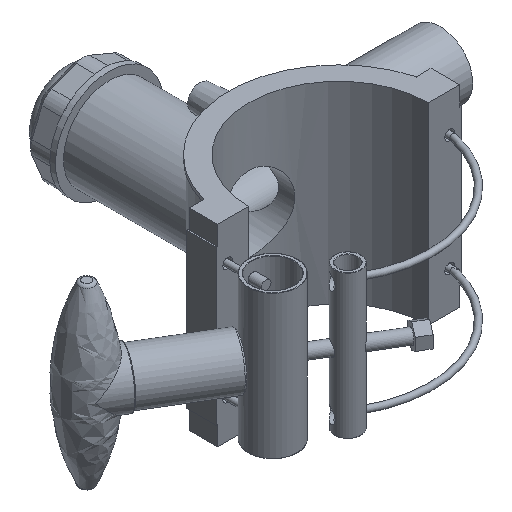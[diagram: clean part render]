
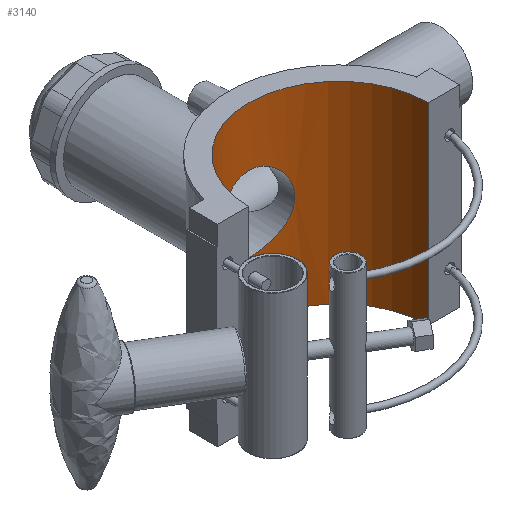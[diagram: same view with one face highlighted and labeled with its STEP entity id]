
A CAD part, isometric view. The second image highlights one B-rep face of the part: STEP entity #3140.
In plain terms, the highlighted cylindrical face has radius 55 mm (diameter 110 mm), a partial arc.
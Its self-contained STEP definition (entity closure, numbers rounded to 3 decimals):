
#59=B_SPLINE_CURVE_WITH_KNOTS('',3,(#4564,#4565,#4566,#4567,#4568,#4569,
#4570,#4571,#4572,#4573,#4574,#4575,#4576,#4577,#4578,#4579,#4580,#4581,
#4582,#4583,#4584,#4585,#4586,#4587,#4588,#4589,#4590,#4591,#4592,#4593,
#4594,#4595,#4596,#4597,#4598,#4599,#4600,#4601,#4602,#4603,#4604,#4605,
#4606,#4607,#4608,#4609,#4610,#4611,#4612,#4613),.UNSPECIFIED.,.F.,.F.,
(4,2,2,2,2,2,2,2,2,2,2,2,2,2,2,2,2,2,2,2,2,2,2,2,4),(0.,0.441,
0.883,1.324,1.765,2.206,2.647,
3.088,3.529,3.969,4.41,4.851,
5.292,5.733,6.175,6.616,7.057,
7.499,7.94,8.381,8.823,9.264,
9.704,10.145,10.586),.UNSPECIFIED.);
#60=B_SPLINE_CURVE_WITH_KNOTS('',3,(#4614,#4615,#4616,#4617,#4618,#4619,
#4620,#4621,#4622,#4623,#4624,#4625,#4626,#4627,#4628,#4629,#4630,#4631),
 .UNSPECIFIED.,.F.,.F.,(4,2,2,2,2,2,2,2,4),(10.586,11.027,
11.468,11.908,12.349,12.791,13.232,
13.673,14.115),.UNSPECIFIED.);
#176=FACE_BOUND('',#605,.T.);
#404=FACE_OUTER_BOUND('',#604,.T.);
#604=EDGE_LOOP('',(#2621,#2622,#2623,#2624));
#605=EDGE_LOOP('',(#2625,#2626));
#800=CIRCLE('',#3439,55.);
#801=CIRCLE('',#3441,55.);
#1007=LINE('',#5841,#1212);
#1012=LINE('',#5850,#1217);
#1212=VECTOR('',#4119,10.);
#1217=VECTOR('',#4126,10.);
#1301=VERTEX_POINT('',#4561);
#1302=VERTEX_POINT('',#4563);
#1463=VERTEX_POINT('',#5838);
#1464=VERTEX_POINT('',#5840);
#1466=VERTEX_POINT('',#5846);
#1467=VERTEX_POINT('',#5848);
#1622=EDGE_CURVE('',#1302,#1301,#59,.T.);
#1623=EDGE_CURVE('',#1301,#1302,#60,.T.);
#1868=EDGE_CURVE('',#1464,#1463,#1007,.T.);
#1873=EDGE_CURVE('',#1466,#1467,#1012,.T.);
#1875=EDGE_CURVE('',#1466,#1463,#800,.T.);
#1876=EDGE_CURVE('',#1464,#1467,#801,.T.);
#2621=ORIENTED_EDGE('',*,*,#1873,.T.);
#2622=ORIENTED_EDGE('',*,*,#1876,.F.);
#2623=ORIENTED_EDGE('',*,*,#1868,.T.);
#2624=ORIENTED_EDGE('',*,*,#1875,.F.);
#2625=ORIENTED_EDGE('',*,*,#1622,.T.);
#2626=ORIENTED_EDGE('',*,*,#1623,.T.);
#3006=CYLINDRICAL_SURFACE('',#3440,55.);
#3140=ADVANCED_FACE('',(#404,#176),#3006,.F.);
#3439=AXIS2_PLACEMENT_3D('',#5854,#4132,#4133);
#3440=AXIS2_PLACEMENT_3D('',#5855,#4134,#4135);
#3441=AXIS2_PLACEMENT_3D('',#5856,#4136,#4137);
#4119=DIRECTION('',(0.,0.,1.));
#4126=DIRECTION('',(0.,0.,-1.));
#4132=DIRECTION('center_axis',(0.,0.,-1.));
#4133=DIRECTION('ref_axis',(1.,0.,0.));
#4134=DIRECTION('center_axis',(0.,0.,1.));
#4135=DIRECTION('ref_axis',(1.,0.,0.));
#4136=DIRECTION('center_axis',(0.,0.,1.));
#4137=DIRECTION('ref_axis',(1.,0.,0.));
#4561=CARTESIAN_POINT('',(0.,55.,-23.1));
#4563=CARTESIAN_POINT('',(-23.1,49.914,0.));
#4564=CARTESIAN_POINT('Ctrl Pts',(-23.1,49.914,0.));
#4565=CARTESIAN_POINT('Ctrl Pts',(-23.1,49.914,1.471));
#4566=CARTESIAN_POINT('Ctrl Pts',(-22.957,49.981,2.986));
#4567=CARTESIAN_POINT('Ctrl Pts',(-22.363,50.249,5.986));
#4568=CARTESIAN_POINT('Ctrl Pts',(-21.913,50.45,7.471));
#4569=CARTESIAN_POINT('Ctrl Pts',(-20.729,50.948,10.31));
#4570=CARTESIAN_POINT('Ctrl Pts',(-19.995,51.245,11.666));
#4571=CARTESIAN_POINT('Ctrl Pts',(-18.306,51.872,14.17));
#4572=CARTESIAN_POINT('Ctrl Pts',(-17.35,52.203,15.318));
#4573=CARTESIAN_POINT('Ctrl Pts',(-15.319,52.834,17.349));
#4574=CARTESIAN_POINT('Ctrl Pts',(-14.172,53.158,18.304));
#4575=CARTESIAN_POINT('Ctrl Pts',(-11.668,53.764,19.994));
#4576=CARTESIAN_POINT('Ctrl Pts',(-10.311,54.044,20.728));
#4577=CARTESIAN_POINT('Ctrl Pts',(-7.47,54.509,21.913));
#4578=CARTESIAN_POINT('Ctrl Pts',(-5.983,54.694,22.364));
#4579=CARTESIAN_POINT('Ctrl Pts',(-2.983,54.94,22.958));
#4580=CARTESIAN_POINT('Ctrl Pts',(-1.469,55.,23.1));
#4581=CARTESIAN_POINT('Ctrl Pts',(1.469,55.,23.1));
#4582=CARTESIAN_POINT('Ctrl Pts',(2.983,54.94,22.958));
#4583=CARTESIAN_POINT('Ctrl Pts',(5.983,54.694,22.364));
#4584=CARTESIAN_POINT('Ctrl Pts',(7.47,54.509,21.913));
#4585=CARTESIAN_POINT('Ctrl Pts',(10.311,54.044,20.728));
#4586=CARTESIAN_POINT('Ctrl Pts',(11.668,53.764,19.994));
#4587=CARTESIAN_POINT('Ctrl Pts',(14.172,53.158,18.304));
#4588=CARTESIAN_POINT('Ctrl Pts',(15.319,52.834,17.349));
#4589=CARTESIAN_POINT('Ctrl Pts',(17.35,52.203,15.318));
#4590=CARTESIAN_POINT('Ctrl Pts',(18.306,51.872,14.17));
#4591=CARTESIAN_POINT('Ctrl Pts',(19.995,51.245,11.666));
#4592=CARTESIAN_POINT('Ctrl Pts',(20.729,50.948,10.31));
#4593=CARTESIAN_POINT('Ctrl Pts',(21.913,50.45,7.471));
#4594=CARTESIAN_POINT('Ctrl Pts',(22.363,50.249,5.986));
#4595=CARTESIAN_POINT('Ctrl Pts',(22.957,49.981,2.986));
#4596=CARTESIAN_POINT('Ctrl Pts',(23.1,49.914,1.471));
#4597=CARTESIAN_POINT('Ctrl Pts',(23.1,49.914,-1.471));
#4598=CARTESIAN_POINT('Ctrl Pts',(22.957,49.981,-2.986));
#4599=CARTESIAN_POINT('Ctrl Pts',(22.363,50.249,-5.986));
#4600=CARTESIAN_POINT('Ctrl Pts',(21.913,50.45,-7.471));
#4601=CARTESIAN_POINT('Ctrl Pts',(20.729,50.948,-10.31));
#4602=CARTESIAN_POINT('Ctrl Pts',(19.995,51.245,-11.666));
#4603=CARTESIAN_POINT('Ctrl Pts',(18.306,51.872,-14.17));
#4604=CARTESIAN_POINT('Ctrl Pts',(17.35,52.203,-15.318));
#4605=CARTESIAN_POINT('Ctrl Pts',(15.319,52.834,-17.349));
#4606=CARTESIAN_POINT('Ctrl Pts',(14.172,53.158,-18.304));
#4607=CARTESIAN_POINT('Ctrl Pts',(11.668,53.764,-19.994));
#4608=CARTESIAN_POINT('Ctrl Pts',(10.311,54.044,-20.728));
#4609=CARTESIAN_POINT('Ctrl Pts',(7.47,54.509,-21.913));
#4610=CARTESIAN_POINT('Ctrl Pts',(5.983,54.694,-22.364));
#4611=CARTESIAN_POINT('Ctrl Pts',(2.983,54.94,-22.958));
#4612=CARTESIAN_POINT('Ctrl Pts',(1.469,55.,-23.1));
#4613=CARTESIAN_POINT('Ctrl Pts',(0.,55.,-23.1));
#4614=CARTESIAN_POINT('Ctrl Pts',(0.,55.,-23.1));
#4615=CARTESIAN_POINT('Ctrl Pts',(-1.469,55.,-23.1));
#4616=CARTESIAN_POINT('Ctrl Pts',(-2.983,54.94,-22.958));
#4617=CARTESIAN_POINT('Ctrl Pts',(-5.983,54.694,-22.364));
#4618=CARTESIAN_POINT('Ctrl Pts',(-7.47,54.509,-21.913));
#4619=CARTESIAN_POINT('Ctrl Pts',(-10.311,54.044,-20.728));
#4620=CARTESIAN_POINT('Ctrl Pts',(-11.668,53.764,-19.994));
#4621=CARTESIAN_POINT('Ctrl Pts',(-14.172,53.158,-18.304));
#4622=CARTESIAN_POINT('Ctrl Pts',(-15.319,52.834,-17.349));
#4623=CARTESIAN_POINT('Ctrl Pts',(-17.35,52.203,-15.318));
#4624=CARTESIAN_POINT('Ctrl Pts',(-18.306,51.872,-14.17));
#4625=CARTESIAN_POINT('Ctrl Pts',(-19.995,51.245,-11.666));
#4626=CARTESIAN_POINT('Ctrl Pts',(-20.729,50.948,-10.31));
#4627=CARTESIAN_POINT('Ctrl Pts',(-21.913,50.45,-7.471));
#4628=CARTESIAN_POINT('Ctrl Pts',(-22.363,50.249,-5.986));
#4629=CARTESIAN_POINT('Ctrl Pts',(-22.957,49.981,-2.986));
#4630=CARTESIAN_POINT('Ctrl Pts',(-23.1,49.914,-1.471));
#4631=CARTESIAN_POINT('Ctrl Pts',(-23.1,49.914,0.));
#5838=CARTESIAN_POINT('',(55.,0.05,59.));
#5840=CARTESIAN_POINT('',(55.,0.05,-59.));
#5841=CARTESIAN_POINT('',(55.,0.05,0.));
#5846=CARTESIAN_POINT('',(-55.,0.05,59.));
#5848=CARTESIAN_POINT('',(-55.,0.05,-59.));
#5850=CARTESIAN_POINT('',(-55.,0.05,0.));
#5854=CARTESIAN_POINT('Origin',(0.,0.,59.));
#5855=CARTESIAN_POINT('Origin',(0.,0.,0.));
#5856=CARTESIAN_POINT('Origin',(0.,0.,-59.));
